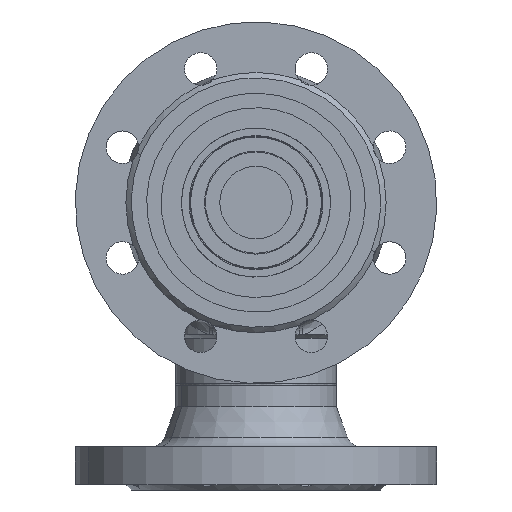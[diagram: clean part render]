
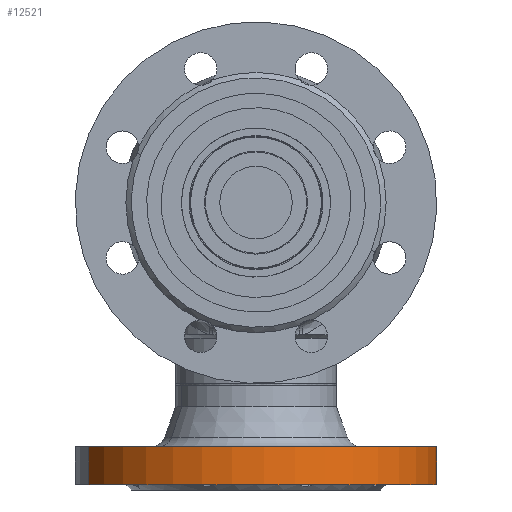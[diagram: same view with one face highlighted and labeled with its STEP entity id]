
A CAD part, front view. The second image highlights one B-rep face of the part: STEP entity #12521.
In plain terms, the highlighted cylindrical face has radius 100 mm (diameter 200 mm), a partial arc.
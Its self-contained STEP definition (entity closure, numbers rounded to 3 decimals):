
#1808 = VERTEX_POINT ( 'NONE', #2694 ) ;
#2694 = CARTESIAN_POINT ( 'NONE',  ( -100., 24., 0. ) ) ;
#19359 = EDGE_CURVE ( 'NONE', #4844, #3772, #15217, .T. ) ;
#3384 = LINE ( 'NONE', #3385, #3388 ) ;
#3385 = CARTESIAN_POINT ( 'NONE',  ( 100., 75., 0. ) ) ;
#3388 = VECTOR ( 'NONE', #3389, 1000. ) ;
#3389 = DIRECTION ( 'NONE',  ( 0., 1., 0. ) ) ;
#3688 = CARTESIAN_POINT ( 'NONE',  ( 100., 24., 0. ) ) ;
#3772 = VERTEX_POINT ( 'NONE', #5676 ) ;
#4143 = ORIENTED_EDGE ( 'NONE', *, *, #19359, .T. ) ;
#4844 = VERTEX_POINT ( 'NONE', #8730 ) ;
#5032 = FACE_OUTER_BOUND ( 'NONE', #5174, .T. ) ;
#5033 = CYLINDRICAL_SURFACE ( 'NONE', #5034, 100. ) ;
#5034 = AXIS2_PLACEMENT_3D ( 'NONE', #5035, #5036, #5037 ) ;
#5035 = CARTESIAN_POINT ( 'NONE',  ( 0., 75., 0. ) ) ;
#5036 = DIRECTION ( 'NONE',  ( 0., 1., 0. ) ) ;
#5037 = DIRECTION ( 'NONE',  ( -1., 0., 0. ) ) ;
#5174 = EDGE_LOOP ( 'NONE', ( #13936, #4143, #11658, #8384 ) ) ;
#5317 = CIRCLE ( 'NONE', #5318, 100. ) ;
#5318 = AXIS2_PLACEMENT_3D ( 'NONE', #5319, #5320, #5323 ) ;
#5319 = CARTESIAN_POINT ( 'NONE',  ( 0., 24., 0. ) ) ;
#5320 = DIRECTION ( 'NONE',  ( 0., 1., 0. ) ) ;
#5323 = DIRECTION ( 'NONE',  ( -1., 0., 0. ) ) ;
#5676 = CARTESIAN_POINT ( 'NONE',  ( -100., 3., 0. ) ) ;
#8384 = ORIENTED_EDGE ( 'NONE', *, *, #12832, .F. ) ;
#8730 = CARTESIAN_POINT ( 'NONE',  ( 100., 3., 0. ) ) ;
#9089 = LINE ( 'NONE', #9090, #9091 ) ;
#9090 = CARTESIAN_POINT ( 'NONE',  ( -100., 75., 0. ) ) ;
#9091 = VECTOR ( 'NONE', #9092, 1000. ) ;
#9092 = DIRECTION ( 'NONE',  ( 0., 1., 0. ) ) ;
#11351 = EDGE_CURVE ( 'NONE', #4844, #11693, #3384, .T. ) ;
#11658 = ORIENTED_EDGE ( 'NONE', *, *, #14745, .T. ) ;
#11693 = VERTEX_POINT ( 'NONE', #3688 ) ;
#12521 = ADVANCED_FACE ( 'NONE', ( #5032 ), #5033, .T. ) ;
#12832 = EDGE_CURVE ( 'NONE', #11693, #1808, #5317, .T. ) ;
#13936 = ORIENTED_EDGE ( 'NONE', *, *, #11351, .F. ) ;
#14745 = EDGE_CURVE ( 'NONE', #3772, #1808, #9089, .T. ) ;
#15217 = CIRCLE ( 'NONE', #15218, 100. ) ;
#15218 = AXIS2_PLACEMENT_3D ( 'NONE', #15219, #15220, #15221 ) ;
#15219 = CARTESIAN_POINT ( 'NONE',  ( 0., 3., 0. ) ) ;
#15220 = DIRECTION ( 'NONE',  ( 0., 1., 0. ) ) ;
#15221 = DIRECTION ( 'NONE',  ( -1., 0., 0. ) ) ;
